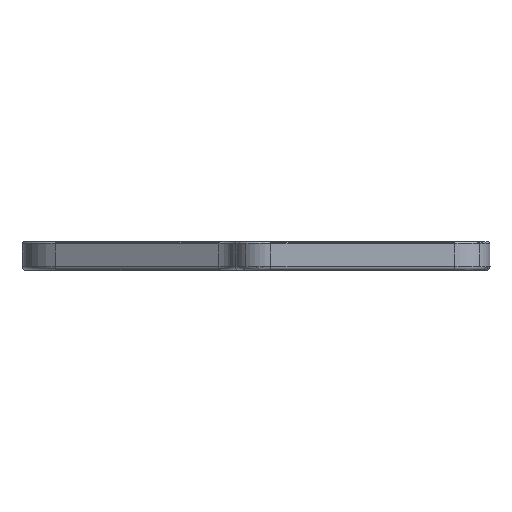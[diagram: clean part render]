
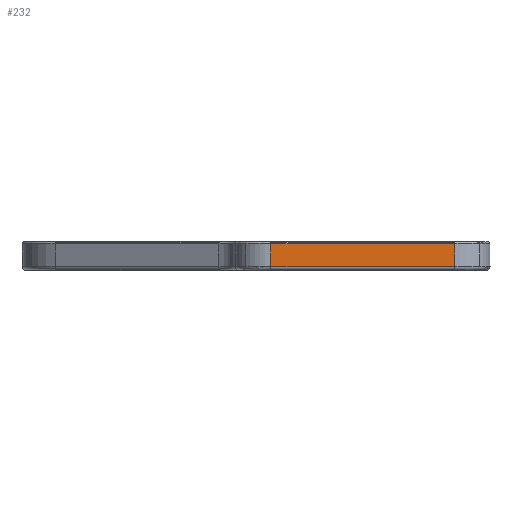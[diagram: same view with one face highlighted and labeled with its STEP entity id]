
A CAD part, front view. The second image highlights one B-rep face of the part: STEP entity #232.
In plain terms, the highlighted planar face has unit normal (0.003, -1, 0).
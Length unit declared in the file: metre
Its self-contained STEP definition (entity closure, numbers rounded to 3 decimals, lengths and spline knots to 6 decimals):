
#232=ADVANCED_FACE('0:290',(#653),#654,.T.);
#653=FACE_OUTER_BOUND('',#1119,.T.);
#654=PLANE('',#1120);
#1119=EDGE_LOOP('',(#2807,#2808,#2809,#2810));
#1120=AXIS2_PLACEMENT_3D('',#2811,#2812,#2813);
#2807=ORIENTED_EDGE('',*,*,#3658,.F.);
#2808=ORIENTED_EDGE('',*,*,#3659,.F.);
#2809=ORIENTED_EDGE('',*,*,#3385,.F.);
#2810=ORIENTED_EDGE('',*,*,#3277,.F.);
#2811=CARTESIAN_POINT('',(0.034943,-0.073252,-0.00015));
#2812=DIRECTION('',(0.003,-1.,0.));
#2813=DIRECTION('',(-1.,-0.003,0.));
#3277=EDGE_CURVE('0:1049',#3950,#3952,#3953,.T.);
#3385=EDGE_CURVE('0:791',#3952,#4143,#4144,.T.);
#3658=EDGE_CURVE('0:1052',#4546,#3950,#4547,.T.);
#3659=EDGE_CURVE('0:1055',#4143,#4546,#4548,.T.);
#3950=VERTEX_POINT('',#4909);
#3952=VERTEX_POINT('',#4911);
#3953=LINE('',#4912,#4913);
#4143=VERTEX_POINT('',#5156);
#4144=LINE('',#5157,#5158);
#4546=VERTEX_POINT('',#5771);
#4547=LINE('',#5772,#5773);
#4548=LINE('',#5774,#5775);
#4909=CARTESIAN_POINT('',(0.023444,-0.073284,-0.000651));
#4911=CARTESIAN_POINT('',(0.023444,-0.073284,0.002599));
#4912=CARTESIAN_POINT('',(0.023444,-0.073284,-0.000151));
#4913=VECTOR('',#6141,1.0);
#5156=CARTESIAN_POINT('',(0.049444,-0.073211,0.002602));
#5157=CARTESIAN_POINT('',(0.02721,-0.073274,0.0026));
#5158=VECTOR('',#6372,1.);
#5771=CARTESIAN_POINT('',(0.049444,-0.073211,-0.000648));
#5772=CARTESIAN_POINT('',(0.027193,-0.073274,-0.00065));
#5773=VECTOR('',#6965,1.0);
#5774=CARTESIAN_POINT('',(0.049444,-0.073211,0.000777));
#5775=VECTOR('',#6966,1.0);
#6141=DIRECTION('',(0.,0.,1.));
#6372=DIRECTION('',(1.,0.003,0.));
#6965=DIRECTION('',(-1.,-0.003,0.));
#6966=DIRECTION('',(0.,0.,-1.));
